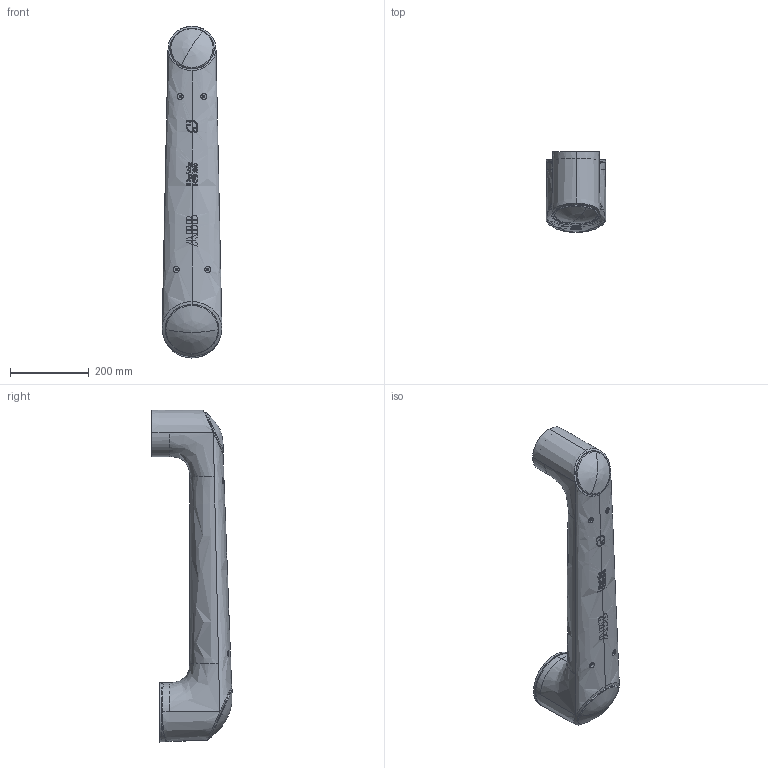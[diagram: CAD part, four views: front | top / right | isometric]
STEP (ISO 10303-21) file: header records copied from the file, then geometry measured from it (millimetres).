
FILE_DESCRIPTION (( 'STEP AP214' ), '1' );
FILE_NAME ('CRB1910_10kg-1520_OmniCore_rev00_Link2.step', '2026-03-26T03:33:12', ( '' ), ( '' ), 'SwSTEP 2.0', 'SolidWorks 2022', '' );
FILE_SCHEMA (( 'AUTOMOTIVE_DESIGN' ));
Length unit declared in the file: millimetre
Products named in the file (1): CRB1910_10kg-1520_OmniCore_rev00_Link2
Bounding box: 151.87 x 204.34 x 844.58 mm (x, y, z)
Volume: 10848500.5 mm3; surface area: 410442.1 mm2
Topology: 1 solids, 1 shells, 464 faces, 1200 edges, 770 vertices
Faces by surface type: bspline 377, cylinder 36, plane 31, cone 12, torus 8
Entity records: 86380 total; most frequent: CARTESIAN_POINT 77816, ORIENTED_EDGE 2376, EDGE_CURVE 1188, B_SPLINE_CURVE_WITH_KNOTS 1020, VERTEX_POINT 770, EDGE_LOOP 508, ADVANCED_FACE 464, FACE_OUTER_BOUND 464
